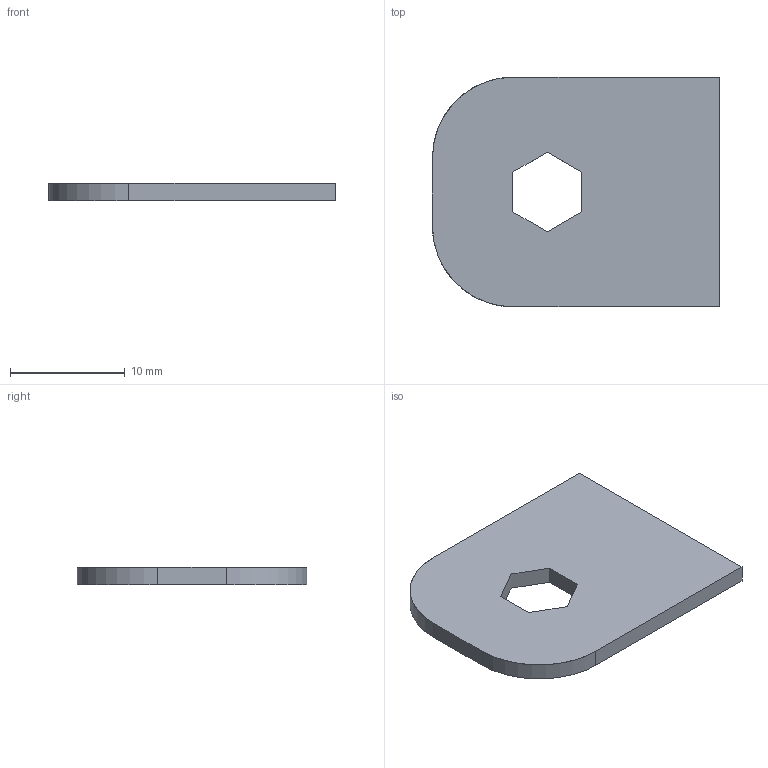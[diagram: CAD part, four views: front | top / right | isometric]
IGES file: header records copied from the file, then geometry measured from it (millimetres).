
Start section: START RECORD GO HERE.
Global section: file name: 20M_AE_03006 (languette acier).igs; native system: 44HIBM CATIA IGES - CATIA Version 5 Release 19; preprocessor: CATIA Version 5 Release 19 ; author: Martin Kawczynski; organization: DESKTOP-UDLM1FC; date: 20200123.173442; units: millimetre
Bounding box: 25 x 20 x 1.5 mm (x, y, z)
Surface area: 1052.7 mm2 (no closed solid volume)
Topology: 0 solids, 0 shells, 14 faces, 72 edges, 72 vertices
Faces by surface type: plane 12, revolution 2
